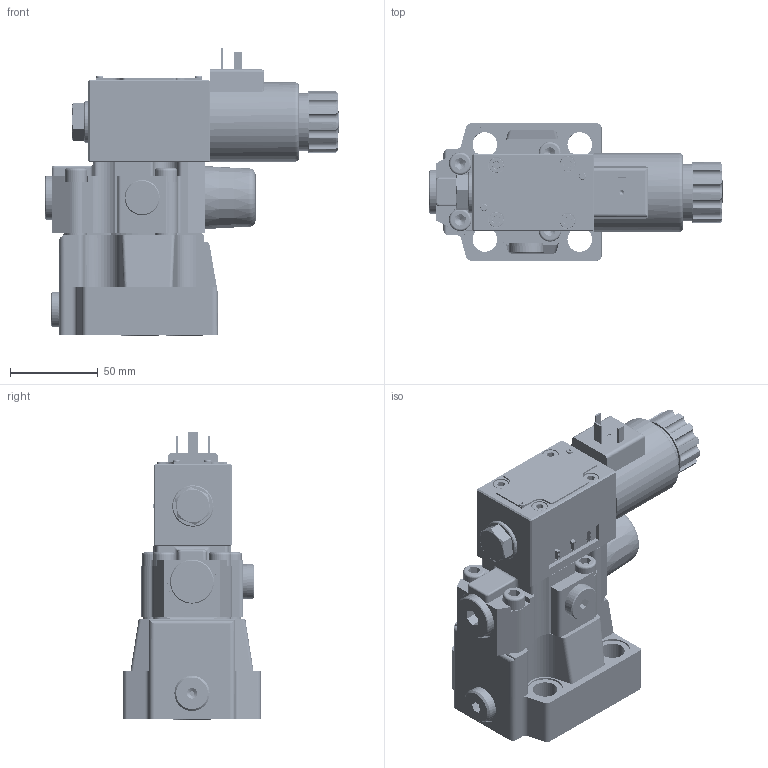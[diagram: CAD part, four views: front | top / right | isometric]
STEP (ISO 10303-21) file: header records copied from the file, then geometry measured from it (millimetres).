
FILE_DESCRIPTION(/* description */ (''),/* implementation_level */ '2;1');
FILE_NAME(/* name */ 'DBW10-5XJ电磁溢流阀.prt.stp',/* time_stamp */ '2022-03-30T20:09:29+08:00',/* author */ (''),/* organization */ (''),/* preprocessor_version */ 'ST-DEVELOPER v16.7',/* originating_system */ 'SIEMENS PLM Software NX 12.0',/* authorisation */ '');
FILE_SCHEMA (('AUTOMOTIVE_DESIGN { 1 0 10303 214 3 1 1 1 }'));
Products named in the file (1): DBW10-5XJ电磁溢流阀
Bounding box: 166.7 x 78 x 163.62 mm (x, y, z)
Volume: 647577.9 mm3; surface area: 165954.2 mm2
Topology: 42 solids, 45 shells, 1427 faces, 3628 edges, 2339 vertices
Faces by surface type: plane 637, cylinder 561, bspline 88, cone 88, torus 45, sphere 8
Full cylindrical faces by diameter (mm): 1.5 x3, 1.8 x4, 2 x5, 2.55 x19, 3 x2, 4 x3, 4.2 x11, 4.3 x48, 5 x122, 5.3 x4, 5.5 x2, 6 x2, 7 x13, 8 x1, 8.1 x1, 8.4 x4, 8.5 x4, 8.7 x1, 9.4 x4, 9.5 x1, 9.653 x4, 11 x2, 11.5 x7, 12 x1, 12.2 x7, 12.73 x4, 13 x1, 14 x4, 14.3 x3, 15.9 x1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
Entity records: 164040 total; most frequent: CARTESIAN_POINT 135903, ORIENTED_EDGE 5310, DIRECTION 5244, EDGE_CURVE 2655, AXIS2_PLACEMENT_3D 1909, VERTEX_POINT 1828, EDGE_LOOP 1542, LINE 1426
